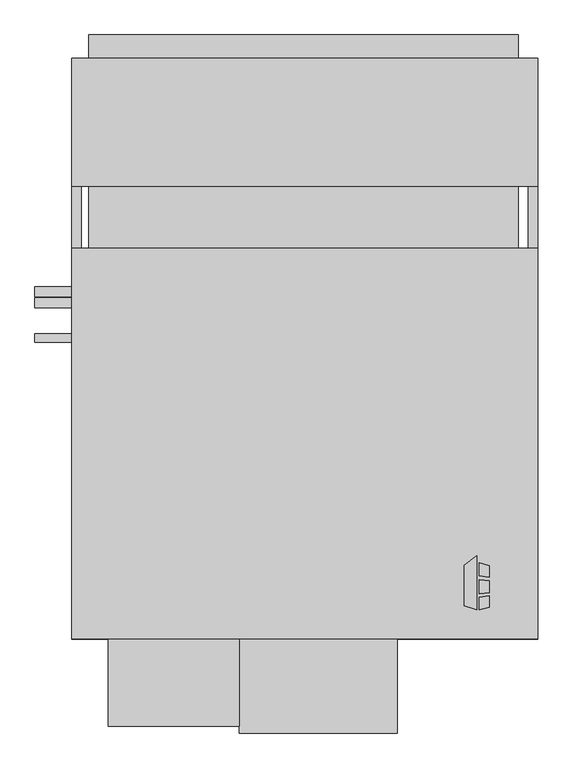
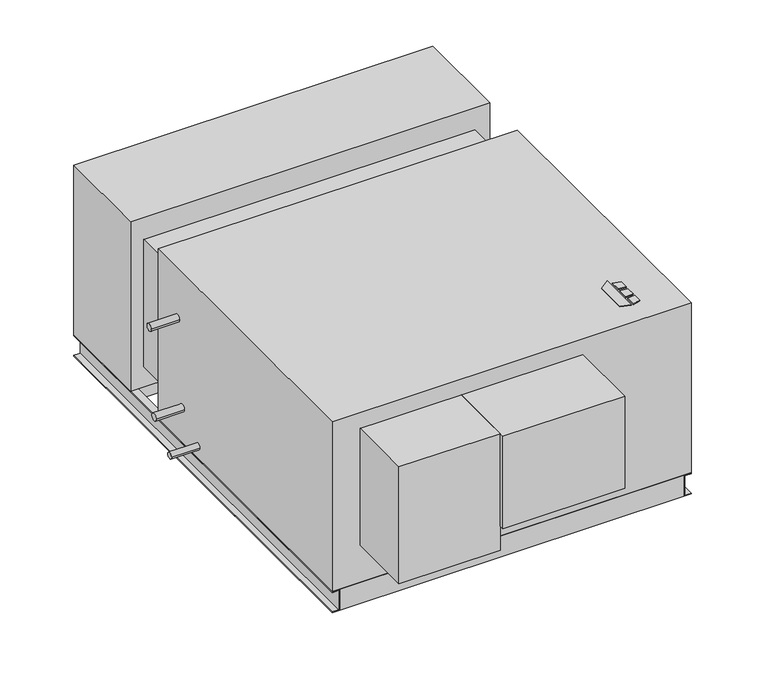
"""IFC4 building model written with IfcOpenShell, lengths in millimetres: proxy geometry, Horizontal_Direct_Drive_Blower_Coil_Unit_-_HDY_-_IEC_-_2-Pipe_Cool-EHeat_NFilterR_W-MixingBox_LH_2022 : Size 20 - 460v/60Hz/3Ph - 8 Row 19.9kW LH."""

import ifcopenshell
import ifcopenshell.guid

model = None  # the IFC model being written
_history = None  # IfcOwnerHistory: only IFC2X3 demands one
_inside = {}  # id of a spatial element -> (the spatial element, [elements in it])
_under = {}  # id of a project, library or spatial element -> (it, [spatial elements below it])
_declared = {}  # id of a project -> (the project, [libraries it declares])
_typed = {}  # id of a type object -> (the type object, [elements of that type])
_made_of = {}  # id of a material, layer set ... -> (it, [elements and type objects made of it])


def new_model(schema):
    """Start an empty IFC model of exactly this schema.

    Asked for "IFC4X3", IfcOpenShell would pick the latest addendum, in which some entities
    have other attributes; the version numbers below select the first issue.
    IFC2X3 requires an IfcOwnerHistory on every rooted entity: one is made here for all.
    """
    global model, _history
    if schema == "IFC4X3":
        model = ifcopenshell.file(schema_version=(4, 3, 0, 0))
    else:
        model = ifcopenshell.file(schema=schema)
    _inside.clear()
    _under.clear()
    _declared.clear()
    _typed.clear()
    _made_of.clear()
    _history = None
    if model.schema == "IFC2X3":
        org = make("IfcOrganization", Name="unknown")
        user = make(
            "IfcPersonAndOrganization",
            ThePerson=make("IfcPerson", FamilyName="unknown"),
            TheOrganization=org,
        )
        app = make(
            "IfcApplication",
            ApplicationDeveloper=org,
            Version="unknown",
            ApplicationFullName="unknown",
            ApplicationIdentifier="unknown",
        )
        _history = make(
            "IfcOwnerHistory",
            OwningUser=user,
            OwningApplication=app,
            ChangeAction="ADDED",
            CreationDate=0,
        )
    return model


def make(cls, **values):
    """One entity of the class cls with the attributes given. An attribute that is None is left unset."""
    return model.create_entity(
        cls, **{name: value for name, value in values.items() if value is not None}
    )


def rooted(cls, **values):
    """An entity with a GlobalId (a new one), such as an element, a storey or a relation."""
    return make(cls, GlobalId=ifcopenshell.guid.new(), OwnerHistory=_history, **values)


def si_unit(unit_type, name, prefix=None):
    """IfcSIUnit, for example si_unit("LENGTHUNIT", "METRE", prefix="MILLI")."""
    return make("IfcSIUnit", UnitType=unit_type, Prefix=prefix, Name=name)


def assignment(units):
    """IfcUnitAssignment: the units of a project."""
    return None if units is None else make("IfcUnitAssignment", Units=units)


def point(xyz):
    """IfcCartesianPoint."""
    return None if xyz is None else make("IfcCartesianPoint", Coordinates=xyz)


def direction(xyz):
    """IfcDirection."""
    return None if xyz is None else make("IfcDirection", DirectionRatios=xyz)


def frame(location, z_axis=None, x_axis=None):
    """IfcAxis2Placement3D, a coordinate frame: its origin and axes. An axis left out is left unset."""
    return make(
        "IfcAxis2Placement3D",
        Location=point(location),
        Axis=direction(z_axis),
        RefDirection=direction(x_axis),
    )


def frame_2d(location, x_axis=None):
    """IfcAxis2Placement2D, a coordinate frame in the plane: its origin and x axis."""
    return make(
        "IfcAxis2Placement2D", Location=point(location), RefDirection=direction(x_axis)
    )


def origin():
    """The frame at (0, 0, 0) with its axes left unset."""
    return frame((0.0, 0.0, 0.0))


def origin_with_axes():
    """The frame at (0, 0, 0) with the z axis (0, 0, 1) and the x axis (1, 0, 0) written out."""
    return frame((0.0, 0.0, 0.0), z_axis=(0.0, 0.0, 1.0), x_axis=(1.0, 0.0, 0.0))


def place(relative_to, where):
    """IfcLocalPlacement: puts the frame where relative to a parent placement (None: the world)."""
    return make(
        "IfcLocalPlacement", PlacementRelTo=relative_to, RelativePlacement=where
    )


def context(
    kind, dimensions, precision=None, world=None, true_north=None, identifier=None
):
    """IfcGeometricRepresentationContext, for example the 3D "Model" context."""
    return make(
        "IfcGeometricRepresentationContext",
        ContextIdentifier=identifier,
        ContextType=kind,
        CoordinateSpaceDimension=dimensions,
        Precision=precision,
        WorldCoordinateSystem=world,
        TrueNorth=true_north,
    )


def project(units=None, contexts=None):
    """IfcProject with its units and contexts."""
    return rooted(
        "IfcProject",
        Name="project",
        RepresentationContexts=contexts,
        UnitsInContext=assignment(units),
    )


def spatial(cls, under=None, at=None, **own):
    """A site, building, storey or space (cls), placed at a placement, below another one or the project."""
    s = rooted(cls, ObjectPlacement=at, **own)
    if under is not None:
        _under.setdefault(under.id(), (under, []))[1].append(s)
    return s


def polyline(points):
    """IfcPolyline through the points."""
    return make("IfcPolyline", Points=[point(p) for p in points])


def circle_curve(where, radius):
    """IfcCircle in the frame where."""
    return make("IfcCircle", Position=where, Radius=radius)


def trimmed(basis, trim1, trim2, sense, master):
    """IfcTrimmedCurve: the piece of a basis curve between two trims."""
    return make(
        "IfcTrimmedCurve",
        BasisCurve=basis,
        Trim1=trim1,
        Trim2=trim2,
        SenseAgreement=sense,
        MasterRepresentation=master,
    )


def segment(curve, same_sense, transition):
    """IfcCompositeCurveSegment."""
    return make(
        "IfcCompositeCurveSegment",
        Transition=transition,
        SameSense=same_sense,
        ParentCurve=curve,
    )


def composite_curve(segments, self_intersect=None):
    """IfcCompositeCurve: segments joined end to end."""
    return make("IfcCompositeCurve", Segments=segments, SelfIntersect=self_intersect)


def outline(outer, holes=None, kind="AREA"):
    """IfcArbitraryClosedProfileDef: a profile drawn as a closed curve; with holes, ...WithVoids."""
    if holes is None:
        return make("IfcArbitraryClosedProfileDef", ProfileType=kind, OuterCurve=outer)
    return make(
        "IfcArbitraryProfileDefWithVoids",
        ProfileType=kind,
        OuterCurve=outer,
        InnerCurves=holes,
    )


def extrude(swept, where, along, depth):
    """IfcExtrudedAreaSolid: the profile swept, set in the frame where, extruded along a direction by depth."""
    return make(
        "IfcExtrudedAreaSolid",
        SweptArea=swept,
        Position=where,
        ExtrudedDirection=direction(along),
        Depth=depth,
    )


def shape(context_of_items, identifier, shape_type, items):
    """IfcShapeRepresentation: the items that make up one representation, for example the "Body"."""
    return make(
        "IfcShapeRepresentation",
        ContextOfItems=context_of_items,
        RepresentationIdentifier=identifier,
        RepresentationType=shape_type,
        Items=items,
    )


def source(mapping_origin, context_of_items, identifier, shape_type, items):
    """IfcRepresentationMap: a shape defined once, which mapped items show again and again."""
    return make(
        "IfcRepresentationMap",
        MappingOrigin=mapping_origin,
        MappedRepresentation=shape(context_of_items, identifier, shape_type, items),
    )


def transform(
    local_origin,
    x_axis=None,
    y_axis=None,
    z_axis=None,
    scale=None,
    scale2=None,
    scale3=None,
    uniform=True,
):
    """IfcCartesianTransformationOperator3D, or its non-uniform kind. x_axis, y_axis, z_axis: its Axis1, 2, 3."""
    if uniform:
        return make(
            "IfcCartesianTransformationOperator3D",
            Axis1=direction(x_axis),
            Axis2=direction(y_axis),
            LocalOrigin=point(local_origin),
            Scale=scale,
            Axis3=direction(z_axis),
        )
    return make(
        "IfcCartesianTransformationOperator3DnonUniform",
        Axis1=direction(x_axis),
        Axis2=direction(y_axis),
        LocalOrigin=point(local_origin),
        Scale=scale,
        Axis3=direction(z_axis),
        Scale2=scale2,
        Scale3=scale3,
    )


def mapped(mapping_source, mapping_target):
    """IfcMappedItem: shows the shape of a source again, moved by a transform."""
    return make(
        "IfcMappedItem", MappingSource=mapping_source, MappingTarget=mapping_target
    )


def made_of(thing, what):
    """Note that an element or type object is made of a material, layer set ...; save() writes the relation."""
    if what is not None:
        _made_of.setdefault(what.id(), (what, []))[1].append(thing)
    return thing


def element(
    cls,
    number,
    at=None,
    inside=None,
    cuts=None,
    type_object=None,
    material=None,
    context=None,
    identifier="Body",
    shape_type=None,
    held_by="IfcProductDefinitionShape",
    body=None,
    shapes=None,
    **own,
):
    """One element of the class cls, such as IfcWall. Its Tag is "e" and its number.

    at: its placement. inside: the storey or other place that contains it. cuts: it is an
    opening in that element (IfcRelVoidsElement). A single representation is given by context,
    identifier, shape_type and body (its items); several are given by shapes. held_by: the class
    of the entity that holds the representations. save() writes the other relations.
    """
    e = rooted(cls, Tag="e%d" % number, ObjectPlacement=at, **own)
    if body is not None:
        shapes = [shape(context, identifier, shape_type, body)]
    if shapes is not None:
        e.Representation = make(held_by, Representations=shapes)
    if inside is not None:
        _inside.setdefault(inside.id(), (inside, []))[1].append(e)
    if cuts is not None:
        rooted(
            "IfcRelVoidsElement", RelatingBuildingElement=cuts, RelatedOpeningElement=e
        )
    if type_object is not None:
        _typed.setdefault(type_object.id(), (type_object, []))[1].append(e)
    return made_of(e, material)


def aggregate(whole, parts):
    """IfcRelAggregates: a whole, such as a stair, and the parts it consists of."""
    return rooted("IfcRelAggregates", RelatingObject=whole, RelatedObjects=parts)


def save(model, path):
    """Write the relations noted so far, then the file.

    IfcRelAggregates (storeys below a building ...), IfcRelContainedInSpatialStructure (elements
    in a storey), IfcRelDefinesByType, IfcRelAssociatesMaterial and IfcRelDeclares: one each for
    every whole, place, type object, material and project.
    """
    for whole, parts in _under.values():
        aggregate(whole, parts)
    for where, things in _inside.values():
        rooted(
            "IfcRelContainedInSpatialStructure",
            RelatedElements=things,
            RelatingStructure=where,
        )
    for kind, things in _typed.values():
        rooted("IfcRelDefinesByType", RelatedObjects=things, RelatingType=kind)
    for what, things in _made_of.values():
        rooted("IfcRelAssociatesMaterial", RelatedObjects=things, RelatingMaterial=what)
    for by, libraries in _declared.values():
        rooted("IfcRelDeclares", RelatingContext=by, RelatedDefinitions=libraries)
    model.write(path)


def mechanical_equipment_04050eff(model_context):
    return source(origin(), model_context, "Body", "SweptSolid", [
        extrude(outline(polyline([(-39.9980239, -337.5078476), (-7.4397272, -312.0705184), (-7.4397272, -454.025), (-39.9980239, -443.8054201), (-39.9980239, -337.5078476)])), origin_with_axes(), (0.0, 0.0, 1.0), 3.175),
        extrude(outline(polyline([(-0.6813942, -365.379852), (-0.6813942, -330.8999379), (25.4, -339.0865115), (25.4, -368.5822446), (-0.6813942, -365.379852)])), origin_with_axes(), (0.0, 0.0, 1.0), 3.175),
        extrude(outline(polyline([(25.4, -447.0365115), (-0.6813942, -454.025), (-0.6813942, -420.8036996), (25.4, -417.2618564), (25.4, -447.0365115)])), origin_with_axes(), (0.0, 0.0, 1.0), 3.175),
        extrude(outline(polyline([(25.4, -377.6638277), (25.4, -408.913983), (-0.6813942, -411.655248), (-0.6813942, -375.7975378), (25.4, -377.6638277)])), origin_with_axes(), (0.0, 0.0, 1.0), 3.175),
        extrude(outline(polyline([(101.6, 887.095), (101.6, 683.895), (-1022.35, 683.895), (-1022.35, 887.095), (101.6, 887.095)])), frame((0.0, 0.0, -670.56), z_axis=(0.0, 0.0, 1.0), x_axis=(1.0, 0.0, 0.0)), (0.0, 0.0, 1.0), 60.96),
        extrude(outline(polyline([(-1022.35, 1049.655), (101.6, 1049.655), (101.6, 988.695), (-1022.35, 988.695), (-1022.35, 1049.655)])), frame((0.0, 0.0, -279.4), z_axis=(0.0, 0.0, 1.0), x_axis=(1.0, 0.0, 0.0)), (0.0, 0.0, 1.0), 203.2),
        extrude(outline(polyline([(152.4, 988.695), (152.4, 654.05), (-1066.8, 654.05), (-1066.8, 988.695), (152.4, 988.695)])), frame((0.0, 0.0, -609.6), z_axis=(0.0, 0.0, 1.0), x_axis=(1.0, 0.0, 0.0)), (0.0, 0.0, 1.0), 609.6),
        extrude(outline(polyline([(127.0, -504.825), (127.0, -530.225), (-1041.4, -530.225), (-1041.4, -504.825), (127.0, -504.825)])), frame((0.0, 0.0, -685.8), z_axis=(0.0, 0.0, 1.0), x_axis=(1.0, 0.0, 0.0)), (0.0, 0.0, 1.0), 76.2),
        extrude(outline(polyline([(127.0, 988.695), (127.0, 963.295), (-1041.4, 963.295), (-1041.4, 988.695), (127.0, 988.695)])), frame((0.0, 0.0, -685.8), z_axis=(0.0, 0.0, 1.0), x_axis=(1.0, 0.0, 0.0)), (0.0, 0.0, 1.0), 76.2),
        extrude(outline(polyline([(-609.6, -1041.4), (-609.6, -1066.8), (-612.775, -1066.8), (-612.775, -1044.575), (-682.625, -1044.575), (-682.625, -1066.8), (-685.8, -1066.8), (-685.8, -1041.4), (-609.6, -1041.4)])), frame((0.0, -530.225, 0.0), z_axis=(0.0, 1.0, 0.0), x_axis=(0.0, 0.0, 1.0)), (0.0, 0.0, 1.0), 1518.92),
        extrude(outline(polyline([(-609.6, 127.0), (-685.8, 127.0), (-685.8, 152.4), (-682.625, 152.4), (-682.625, 130.175), (-612.775, 130.175), (-612.775, 152.4), (-609.6, 152.4), (-609.6, 127.0)])), frame((0.0, -530.225, 0.0), z_axis=(0.0, 1.0, 0.0), x_axis=(0.0, 0.0, 1.0)), (0.0, 0.0, 1.0), 1518.92),
        extrude(outline(composite_curve([segment(trimmed(circle_curve(frame_2d((377.825, -177.8)), 12.7), [point((365.125, -177.8))], [point((390.525, -177.8))], False, "CARTESIAN"), True, "CONTINUOUS"), segment(trimmed(circle_curve(frame_2d((377.825, -177.8)), 12.7), [point((390.525, -177.8))], [point((365.125, -177.8))], False, "CARTESIAN"), True, "CONTINUOUS")], self_intersect=False)), frame((-1163.1025559, 0.0, 0.0), z_axis=(1.0, 0.0, 0.0), x_axis=(0.0, 1.0, 0.0)), (0.0, 0.0, 1.0), 96.3025559),
        extrude(outline(composite_curve([segment(trimmed(circle_curve(frame_2d((348.9715397, -482.6)), 12.7), [point((336.2715397, -482.6))], [point((361.6715397, -482.6))], False, "CARTESIAN"), True, "CONTINUOUS"), segment(trimmed(circle_curve(frame_2d((348.9715397, -482.6)), 12.7), [point((361.6715397, -482.6))], [point((336.2715397, -482.6))], False, "CARTESIAN"), True, "CONTINUOUS")], self_intersect=False)), frame((-1163.1025559, 0.0, 0.0), z_axis=(1.0, 0.0, 0.0), x_axis=(0.0, 1.0, 0.0)), (0.0, 0.0, 1.0), 96.3025559),
        extrude(outline(composite_curve([segment(trimmed(circle_curve(frame_2d((257.175, -565.15)), 11.1125), [point((246.0625, -565.15))], [point((268.2875, -565.15))], False, "CARTESIAN"), True, "CONTINUOUS"), segment(trimmed(circle_curve(frame_2d((257.175, -565.15)), 11.1125), [point((268.2875, -565.15))], [point((246.0625, -565.15))], False, "CARTESIAN"), True, "CONTINUOUS")], self_intersect=False)), frame((-1163.1025559, 0.0, 0.0), z_axis=(1.0, 0.0, 0.0), x_axis=(0.0, 1.0, 0.0)), (0.0, 0.0, 1.0), 96.3025559),
        extrude(outline(polyline([(152.4, 492.125), (152.4, -530.225), (-1066.8, -530.225), (-1066.8, 492.125), (152.4, 492.125)])), frame((0.0, 0.0, -609.6), z_axis=(0.0, 0.0, 1.0), x_axis=(1.0, 0.0, 0.0)), (0.0, 0.0, 1.0), 609.6),
        extrude(outline(polyline([(-628.65, -758.825), (-971.55, -758.825), (-971.55, -530.225), (-628.65, -530.225), (-628.65, -758.825)])), frame((0.0, 0.0, -476.25), z_axis=(0.0, 0.0, 1.0), x_axis=(1.0, 0.0, 0.0)), (0.0, 0.0, 1.0), 419.1),
        extrude(outline(polyline([(-1022.35, 654.05), (101.6, 654.05), (101.6, 492.125), (-1022.35, 492.125), (-1022.35, 654.05)])), frame((0.0, 0.0, -536.575), z_axis=(0.0, 0.0, 1.0), x_axis=(1.0, 0.0, 0.0)), (0.0, 0.0, 1.0), 457.2),
        extrude(outline(polyline([(-215.9, -776.2875), (-628.65, -776.2875), (-628.65, -530.225), (-215.9, -530.225), (-215.9, -776.2875)])), frame((0.0, 0.0, -387.35), z_axis=(0.0, 0.0, 1.0), x_axis=(1.0, 0.0, 0.0)), (0.0, 0.0, 1.0), 330.2),
    ])


if __name__ == "__main__":
    model = new_model("IFC4")
    model_context = context("Model", 3, world=origin())
    ifc_project = project(units=[si_unit("LENGTHUNIT", "METRE", prefix="MILLI")], contexts=[model_context])
    site = spatial("IfcSite", under=ifc_project)
    building = spatial("IfcBuilding", under=site)
    placement = place(None, origin())
    mechanical_equipment_shape = mechanical_equipment_04050eff(model_context)
    element("IfcBuildingElementProxy", 1, Name="Horizontal_Direct_Drive_Blower_Coil_Unit_-_HDY_-_IEC_-_2-Pipe_Cool-EHeat_NFilterR_W-MixingBox_LH_2022 : Size 20 - 460v/60Hz/3Ph - 8 Row 19.9kW LH", ObjectType="Horizontal_Direct_Drive_Blower_Coil_Unit_-_HDY_-_IEC_-_2-Pipe_Cool-EHeat_NFilterR_W-MixingBox_LH_2022 : Size 20 - 460v/60Hz/3Ph - 8 Row 19.9kW LH", at=placement, inside=building, context=model_context, shape_type="MappedRepresentation", body=[
        mapped(mechanical_equipment_shape, transform((0.0, 0.0, 0.0), x_axis=(1.0, 0.0, 0.0), y_axis=(0.0, 1.0, 0.0), z_axis=(0.0, 0.0, 1.0))),
    ])
    save(model, "model.ifc")
